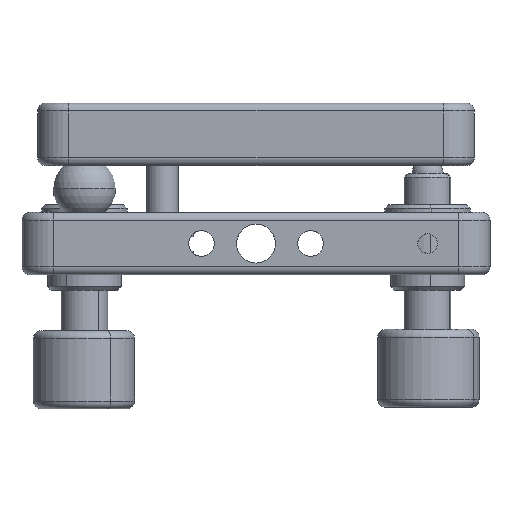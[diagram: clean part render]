
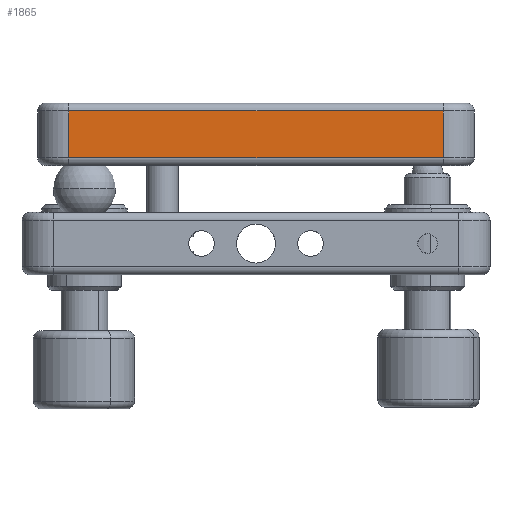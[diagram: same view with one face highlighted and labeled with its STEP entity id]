
A CAD part, front view. The second image highlights one B-rep face of the part: STEP entity #1865.
In plain terms, the highlighted planar face has unit normal (0, -1, 0).
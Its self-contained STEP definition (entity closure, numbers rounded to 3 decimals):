
#1156 = VERTEX_POINT ( 'NONE', #8341 ) ;
#1552 = VECTOR ( 'NONE', #8364, 1000. ) ;
#1560 = LINE ( 'NONE', #8162, #1552 ) ;
#1865 = ADVANCED_FACE ( 'NONE', ( #3150 ), #2336, .F. ) ;
#1871 = VECTOR ( 'NONE', #9442, 1000. ) ;
#1883 = LINE ( 'NONE', #7302, #1871 ) ;
#2299 = CARTESIAN_POINT ( 'NONE',  ( -28., -28., 18. ) ) ;
#2311 = DIRECTION ( 'NONE',  ( 0., 1., 0. ) ) ;
#2331 = DIRECTION ( 'NONE',  ( 0., 0., 1. ) ) ;
#2336 = PLANE ( 'NONE',  #9019 ) ;
#2638 = EDGE_LOOP ( 'NONE', ( #6482, #8846, #3859, #4888 ) ) ;
#2659 = CARTESIAN_POINT ( 'NONE',  ( -24., -28., 17. ) ) ;
#3150 = FACE_OUTER_BOUND ( 'NONE', #2638, .T. ) ;
#3859 = ORIENTED_EDGE ( 'NONE', *, *, #4555, .T. ) ;
#4185 = VERTEX_POINT ( 'NONE', #2659 ) ;
#4422 = EDGE_CURVE ( 'NONE', #1156, #7869, #6778, .T. ) ;
#4555 = EDGE_CURVE ( 'NONE', #4185, #9492, #6541, .T. ) ;
#4888 = ORIENTED_EDGE ( 'NONE', *, *, #8111, .T. ) ;
#5184 = DIRECTION ( 'NONE',  ( 0., 0., 1. ) ) ;
#5202 = CARTESIAN_POINT ( 'NONE',  ( 24., -28., 18. ) ) ;
#6264 = DIRECTION ( 'NONE',  ( 0., 0., -1. ) ) ;
#6294 = CARTESIAN_POINT ( 'NONE',  ( -24., -28., 18. ) ) ;
#6482 = ORIENTED_EDGE ( 'NONE', *, *, #4422, .T. ) ;
#6541 = LINE ( 'NONE', #6294, #6615 ) ;
#6615 = VECTOR ( 'NONE', #6264, 1000. ) ;
#6778 = LINE ( 'NONE', #5202, #6851 ) ;
#6851 = VECTOR ( 'NONE', #5184, 1000. ) ;
#7097 = CARTESIAN_POINT ( 'NONE',  ( 24., -28., 17. ) ) ;
#7302 = CARTESIAN_POINT ( 'NONE',  ( -24., -28., 17. ) ) ;
#7400 = CARTESIAN_POINT ( 'NONE',  ( -24., -28., 11. ) ) ;
#7869 = VERTEX_POINT ( 'NONE', #7097 ) ;
#8111 = EDGE_CURVE ( 'NONE', #9492, #1156, #1560, .T. ) ;
#8162 = CARTESIAN_POINT ( 'NONE',  ( -28., -28., 11. ) ) ;
#8226 = EDGE_CURVE ( 'NONE', #7869, #4185, #1883, .T. ) ;
#8341 = CARTESIAN_POINT ( 'NONE',  ( 24., -28., 11. ) ) ;
#8364 = DIRECTION ( 'NONE',  ( 1., 0., 0. ) ) ;
#8846 = ORIENTED_EDGE ( 'NONE', *, *, #8226, .T. ) ;
#9019 = AXIS2_PLACEMENT_3D ( 'NONE', #2299, #2311, #2331 ) ;
#9442 = DIRECTION ( 'NONE',  ( -1., 0., 0. ) ) ;
#9492 = VERTEX_POINT ( 'NONE', #7400 ) ;
